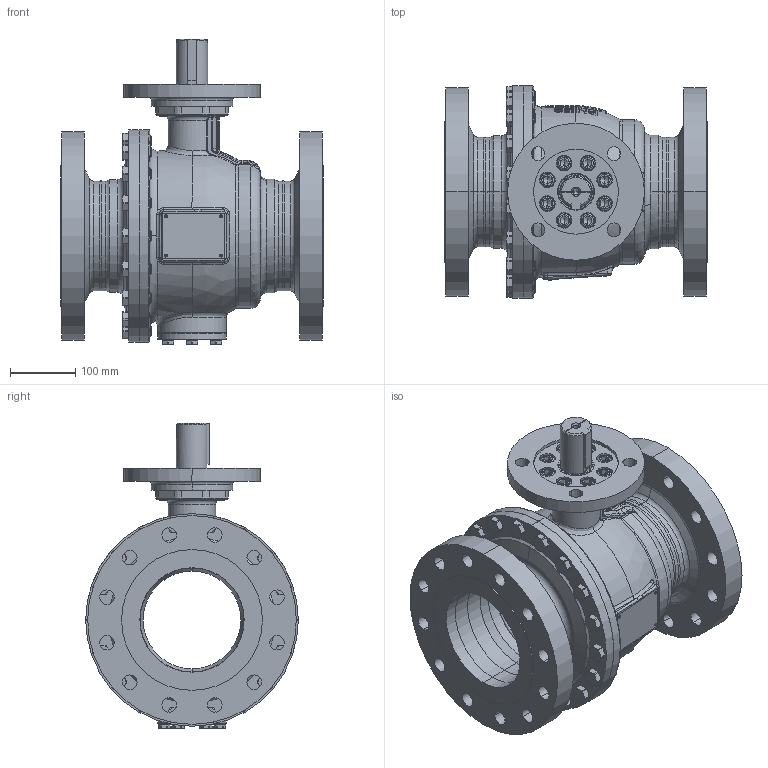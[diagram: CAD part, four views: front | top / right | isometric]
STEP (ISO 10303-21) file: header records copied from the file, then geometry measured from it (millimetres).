
FILE_DESCRIPTION((''),'2;1');
FILE_NAME('KHI-F_150_CL300-F16-P_SW0001','2026-02-05T11:55:52',('fischerkl'),('KLINGER'),'CREO PARAMETRIC BY PTC INC, 2023014','CREO PARAMETRIC BY PTC INC, 2023014','');
FILE_SCHEMA(('CONFIG_CONTROL_DESIGN'));
Products named in the file (1): KHI-F_150_CL300-F16-P_SW0001
Bounding box: 403 x 326 x 469.2 mm (x, y, z)
Volume: 10334083.6 mm3; surface area: 1702684.3 mm2
Topology: 1 solids, 4 shells, 3747 faces, 9596 edges, 5987 vertices
Faces by surface type: plane 2284, cylinder 696, cone 366, torus 260, bspline 113, sphere 28
Entity records: 145200 total; most frequent: CARTESIAN_POINT 56533, ORIENTED_EDGE 19140, DIRECTION 17533, EDGE_CURVE 9570, AXIS2_PLACEMENT_3D 6189, VERTEX_POINT 5987, VECTOR 5155, LINE 5155
